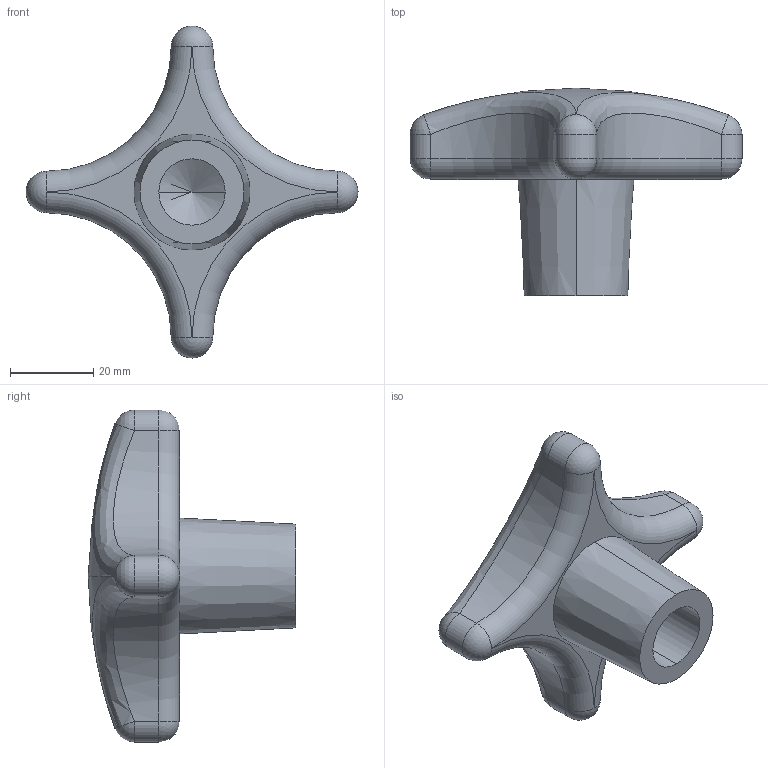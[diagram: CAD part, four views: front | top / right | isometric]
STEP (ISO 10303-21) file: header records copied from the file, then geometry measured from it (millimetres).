
FILE_DESCRIPTION (( 'STEP AP203' ), '1' );
FILE_NAME ('7000.W280.step', '2010-01-29T17:36:55', ( 'Wixroyd' ), ( 'Wixroyd' ), 'SwSTEP 2.0', 'SolidWorks 2009', '' );
FILE_SCHEMA (( 'CONFIG_CONTROL_DESIGN' ));
Length unit declared in the file: millimetre
Products named in the file (1): 7000.W280
Bounding box: 80 x 50 x 80 mm (x, y, z)
Volume: 50406.2 mm3; surface area: 11880.4 mm2
Topology: 1 solids, 1 shells, 35 faces, 75 edges, 38 vertices
Faces by surface type: cylinder 11, sphere 10, cone 4, torus 4, bspline 4, plane 2
Entity records: 3754 total; most frequent: CARTESIAN_POINT 2951, DIRECTION 171, ORIENTED_EDGE 138, AXIS2_PLACEMENT_3D 78, EDGE_CURVE 69, CIRCLE 46, VERTEX_POINT 38, EDGE_LOOP 37
